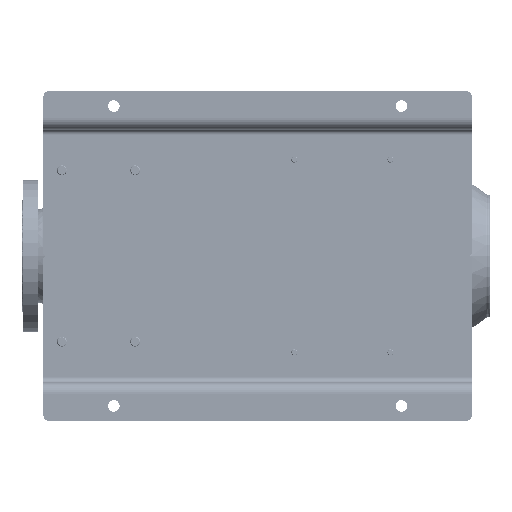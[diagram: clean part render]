
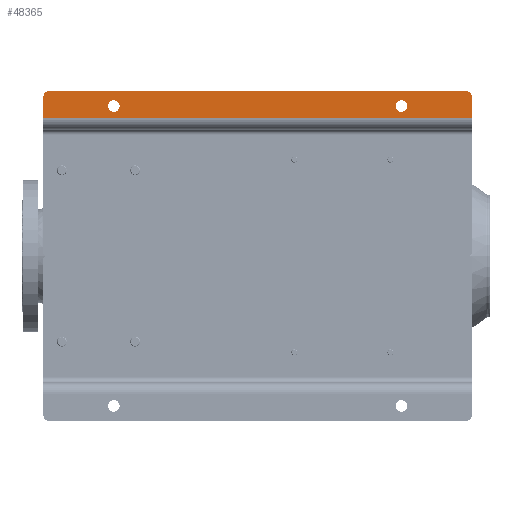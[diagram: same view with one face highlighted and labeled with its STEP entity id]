
A CAD part, front view. The second image highlights one B-rep face of the part: STEP entity #48365.
In plain terms, the highlighted planar face has unit normal (0, -1, 0).
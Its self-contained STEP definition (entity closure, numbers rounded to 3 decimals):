
#1558 = CARTESIAN_POINT ( 'NONE',  ( 495., 0., 0. ) ) ;
#2512 = CARTESIAN_POINT ( 'NONE',  ( 515., 0., -105.5 ) ) ;
#3758 = EDGE_LOOP ( 'NONE', ( #61161, #144123 ) ) ;
#10509 = DIRECTION ( 'NONE',  ( 0., 0., -1. ) ) ;
#11537 = AXIS2_PLACEMENT_3D ( 'NONE', #119683, #177747, #46370 ) ;
#13159 = LINE ( 'NONE', #71268, #120577 ) ;
#14106 = ORIENTED_EDGE ( 'NONE', *, *, #133594, .T. ) ;
#17668 = CARTESIAN_POINT ( 'NONE',  ( 477., 0., 0. ) ) ;
#25287 = CARTESIAN_POINT ( 'NONE',  ( 477., 0., -700. ) ) ;
#34350 = VECTOR ( 'NONE', #127143, 1000. ) ;
#34433 = CARTESIAN_POINT ( 'NONE',  ( 515., 0., -115. ) ) ;
#40175 = ORIENTED_EDGE ( 'NONE', *, *, #178771, .T. ) ;
#40814 = ORIENTED_EDGE ( 'NONE', *, *, #66535, .T. ) ;
#43654 = EDGE_CURVE ( 'NONE', #60429, #174253, #155718, .T. ) ;
#46370 = DIRECTION ( 'NONE',  ( 0., 0., -1. ) ) ;
#48365 = ADVANCED_FACE ( 'NONE', ( #154715, #69963, #128013 ), #157514, .T. ) ;
#51222 = ORIENTED_EDGE ( 'NONE', *, *, #132930, .F. ) ;
#53799 = DIRECTION ( 'NONE',  ( 0., 1., 0. ) ) ;
#57728 = AXIS2_PLACEMENT_3D ( 'NONE', #155212, #140931, #10509 ) ;
#60429 = VERTEX_POINT ( 'NONE', #70936 ) ;
#61161 = ORIENTED_EDGE ( 'NONE', *, *, #176969, .T. ) ;
#63916 = DIRECTION ( 'NONE',  ( 0., 1., 0. ) ) ;
#64675 = DIRECTION ( 'NONE',  ( 0., 0., 1. ) ) ;
#66535 = EDGE_CURVE ( 'NONE', #164731, #188009, #146853, .T. ) ;
#67915 = EDGE_CURVE ( 'NONE', #93559, #111249, #180659, .T. ) ;
#69963 = FACE_BOUND ( 'NONE', #179624, .T. ) ;
#70936 = CARTESIAN_POINT ( 'NONE',  ( 495., 0., -700. ) ) ;
#71268 = CARTESIAN_POINT ( 'NONE',  ( 495., 0., -700. ) ) ;
#72290 = DIRECTION ( 'NONE',  ( 0., 1., 0. ) ) ;
#72589 = CARTESIAN_POINT ( 'NONE',  ( 540., 0., -10. ) ) ;
#74870 = AXIS2_PLACEMENT_3D ( 'NONE', #127086, #172735, #185127 ) ;
#77537 = CIRCLE ( 'NONE', #183958, 10. ) ;
#77972 = ORIENTED_EDGE ( 'NONE', *, *, #83491, .T. ) ;
#78000 = CARTESIAN_POINT ( 'NONE',  ( 540., 0., -700. ) ) ;
#80410 = CIRCLE ( 'NONE', #180672, 9.5 ) ;
#82625 = CARTESIAN_POINT ( 'NONE',  ( 515., 0., -124.5 ) ) ;
#83491 = EDGE_CURVE ( 'NONE', #188009, #164731, #175728, .T. ) ;
#91999 = EDGE_LOOP ( 'NONE', ( #51222, #161944, #131747, #97832, #14106, #40175 ) ) ;
#93559 = VERTEX_POINT ( 'NONE', #82625 ) ;
#94297 = CARTESIAN_POINT ( 'NONE',  ( 515., 0., -575.5 ) ) ;
#97832 = ORIENTED_EDGE ( 'NONE', *, *, #168337, .T. ) ;
#99462 = CARTESIAN_POINT ( 'NONE',  ( 530., 0., -10. ) ) ;
#111249 = VERTEX_POINT ( 'NONE', #2512 ) ;
#114684 = DIRECTION ( 'NONE',  ( 0., -1., 0. ) ) ;
#119570 = DIRECTION ( 'NONE',  ( 1., 0., 0. ) ) ;
#119683 = CARTESIAN_POINT ( 'NONE',  ( 515., 0., -585. ) ) ;
#119722 = DIRECTION ( 'NONE',  ( 0., 0., -1. ) ) ;
#120577 = VECTOR ( 'NONE', #119722, 1000. ) ;
#123769 = CARTESIAN_POINT ( 'NONE',  ( 530., 0., -700. ) ) ;
#124286 = DIRECTION ( 'NONE',  ( 0., 0., -1. ) ) ;
#125364 = CARTESIAN_POINT ( 'NONE',  ( 540., 0., -690. ) ) ;
#126187 = CARTESIAN_POINT ( 'NONE',  ( 515., 0., -585. ) ) ;
#127086 = CARTESIAN_POINT ( 'NONE',  ( 477., 0., -700. ) ) ;
#127143 = DIRECTION ( 'NONE',  ( 1., 0., 0. ) ) ;
#127725 = CIRCLE ( 'NONE', #57728, 10. ) ;
#127870 = VERTEX_POINT ( 'NONE', #72589 ) ;
#128013 = FACE_OUTER_BOUND ( 'NONE', #91999, .T. ) ;
#130335 = CARTESIAN_POINT ( 'NONE',  ( 515., 0., -115. ) ) ;
#131747 = ORIENTED_EDGE ( 'NONE', *, *, #43654, .T. ) ;
#132930 = EDGE_CURVE ( 'NONE', #155427, #177445, #148114, .T. ) ;
#133594 = EDGE_CURVE ( 'NONE', #134238, #127870, #138895, .T. ) ;
#134238 = VERTEX_POINT ( 'NONE', #125364 ) ;
#134990 = AXIS2_PLACEMENT_3D ( 'NONE', #130335, #72290, #158927 ) ;
#138895 = LINE ( 'NONE', #78000, #158802 ) ;
#139083 = DIRECTION ( 'NONE',  ( 0., 0., -1. ) ) ;
#140931 = DIRECTION ( 'NONE',  ( 0., -1., 0. ) ) ;
#144123 = ORIENTED_EDGE ( 'NONE', *, *, #67915, .T. ) ;
#146853 = CIRCLE ( 'NONE', #152953, 9.5 ) ;
#147554 = EDGE_CURVE ( 'NONE', #155427, #60429, #13159, .T. ) ;
#148114 = LINE ( 'NONE', #17668, #173882 ) ;
#152953 = AXIS2_PLACEMENT_3D ( 'NONE', #126187, #53799, #124286 ) ;
#154715 = FACE_BOUND ( 'NONE', #3758, .T. ) ;
#155185 = CARTESIAN_POINT ( 'NONE',  ( 530., 0., 0. ) ) ;
#155212 = CARTESIAN_POINT ( 'NONE',  ( 530., 0., -690. ) ) ;
#155427 = VERTEX_POINT ( 'NONE', #1558 ) ;
#155718 = LINE ( 'NONE', #25287, #34350 ) ;
#157514 = PLANE ( 'NONE',  #74870 ) ;
#158802 = VECTOR ( 'NONE', #64675, 1000. ) ;
#158927 = DIRECTION ( 'NONE',  ( 0., 0., -1. ) ) ;
#161944 = ORIENTED_EDGE ( 'NONE', *, *, #147554, .T. ) ;
#164731 = VERTEX_POINT ( 'NONE', #176476 ) ;
#168337 = EDGE_CURVE ( 'NONE', #174253, #134238, #127725, .T. ) ;
#172735 = DIRECTION ( 'NONE',  ( 0., -1., 0. ) ) ;
#172754 = DIRECTION ( 'NONE',  ( 0., 0., -1. ) ) ;
#173882 = VECTOR ( 'NONE', #119570, 1000. ) ;
#174253 = VERTEX_POINT ( 'NONE', #123769 ) ;
#175728 = CIRCLE ( 'NONE', #11537, 9.5 ) ;
#176476 = CARTESIAN_POINT ( 'NONE',  ( 515., 0., -594.5 ) ) ;
#176969 = EDGE_CURVE ( 'NONE', #111249, #93559, #80410, .T. ) ;
#177445 = VERTEX_POINT ( 'NONE', #155185 ) ;
#177747 = DIRECTION ( 'NONE',  ( 0., 1., 0. ) ) ;
#178771 = EDGE_CURVE ( 'NONE', #127870, #177445, #77537, .T. ) ;
#179624 = EDGE_LOOP ( 'NONE', ( #77972, #40814 ) ) ;
#180659 = CIRCLE ( 'NONE', #134990, 9.5 ) ;
#180672 = AXIS2_PLACEMENT_3D ( 'NONE', #34433, #63916, #139083 ) ;
#183958 = AXIS2_PLACEMENT_3D ( 'NONE', #99462, #114684, #172754 ) ;
#185127 = DIRECTION ( 'NONE',  ( 0., 0., -1. ) ) ;
#188009 = VERTEX_POINT ( 'NONE', #94297 ) ;
